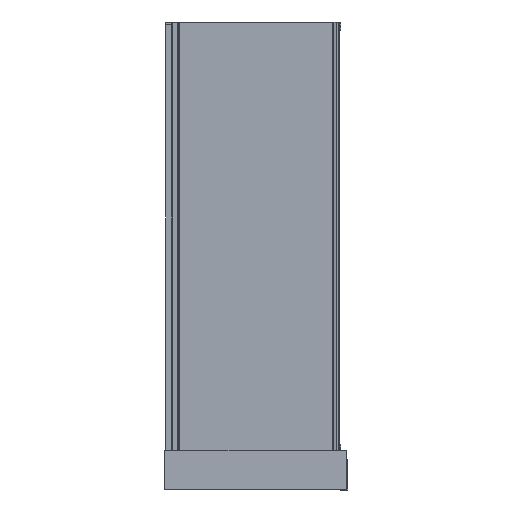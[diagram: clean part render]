
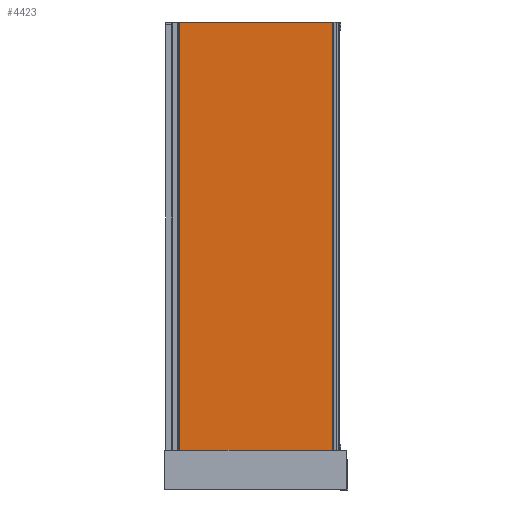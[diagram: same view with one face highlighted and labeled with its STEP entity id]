
A CAD part, left-side view. The second image highlights one B-rep face of the part: STEP entity #4423.
In plain terms, the highlighted planar face has unit normal (-1, 0, 0).
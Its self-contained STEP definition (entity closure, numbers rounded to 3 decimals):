
#4344=CARTESIAN_POINT('',(-964.701,-57.206,164.56));
#4345=VERTEX_POINT('',#4344);
#4352=CARTESIAN_POINT('',(-964.701,-57.206,2061.56));
#4353=VERTEX_POINT('',#4352);
#4354=CARTESIAN_POINT('',(-964.701,-57.206,2061.56));
#4355=DIRECTION('',(0.0,0.0,-1.0));
#4356=VECTOR('',#4355,1897.0);
#4357=LINE('',#4354,#4356);
#4358=EDGE_CURVE('',#4353,#4345,#4357,.T.);
#4383=CARTESIAN_POINT('',(-964.701,-750.206,164.56));
#4384=VERTEX_POINT('',#4383);
#4391=CARTESIAN_POINT('',(-964.701,-57.206,164.56));
#4392=DIRECTION('',(0.0,-1.0,0.0));
#4393=VECTOR('',#4392,693.);
#4394=LINE('',#4391,#4393);
#4395=EDGE_CURVE('',#4345,#4384,#4394,.T.);
#4400=CARTESIAN_POINT('',(-964.701,-27.556,69.71));
#4401=DIRECTION('',(-1.0,0.0,0.0));
#4402=DIRECTION('',(0.0,-1.0,0.0));
#4403=AXIS2_PLACEMENT_3D('',#4400,#4401,#4402);
#4404=PLANE('',#4403);
#4405=CARTESIAN_POINT('',(-964.701,-750.206,2061.56));
#4406=VERTEX_POINT('',#4405);
#4407=CARTESIAN_POINT('',(-964.701,-57.206,2061.56));
#4408=DIRECTION('',(0.0,-1.0,0.0));
#4409=VECTOR('',#4408,693.);
#4410=LINE('',#4407,#4409);
#4411=EDGE_CURVE('',#4353,#4406,#4410,.T.);
#4412=ORIENTED_EDGE('',*,*,#4411,.F.);
#4413=ORIENTED_EDGE('',*,*,#4358,.T.);
#4414=ORIENTED_EDGE('',*,*,#4395,.T.);
#4415=CARTESIAN_POINT('',(-964.701,-750.206,164.56));
#4416=DIRECTION('',(0.0,0.0,1.0));
#4417=VECTOR('',#4416,1897.0);
#4418=LINE('',#4415,#4417);
#4419=EDGE_CURVE('',#4384,#4406,#4418,.T.);
#4420=ORIENTED_EDGE('',*,*,#4419,.T.);
#4421=EDGE_LOOP('',(#4412,#4413,#4414,#4420));
#4422=FACE_OUTER_BOUND('',#4421,.T.);
#4423=ADVANCED_FACE('',(#4422),#4404,.T.);
